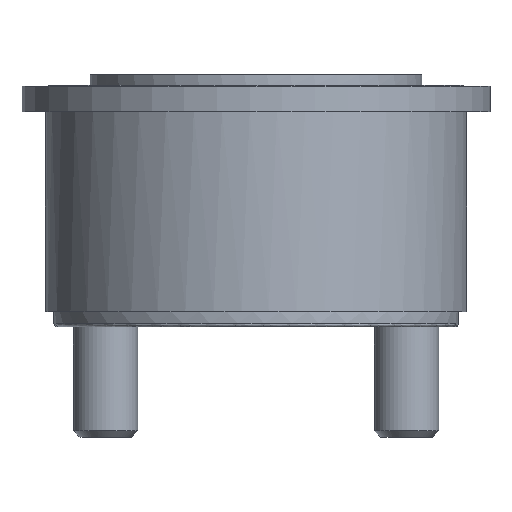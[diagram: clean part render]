
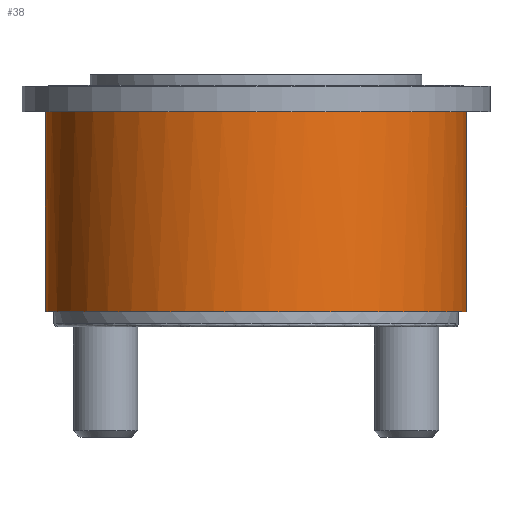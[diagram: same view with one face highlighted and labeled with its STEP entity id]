
A CAD part, front view. The second image highlights one B-rep face of the part: STEP entity #38.
In plain terms, the highlighted cylindrical face has radius 31.5 mm (diameter 63 mm), a full revolution.
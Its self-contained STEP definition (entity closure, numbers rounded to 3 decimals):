
#38=ADVANCED_FACE('',(#61),#287,.T.);
#61=FACE_OUTER_BOUND('',#87,.T.);
#87=EDGE_LOOP('',(#124,#125,#126,#127));
#124=ORIENTED_EDGE('',*,*,#188,.T.);
#125=ORIENTED_EDGE('',*,*,#189,.T.);
#126=ORIENTED_EDGE('',*,*,#190,.T.);
#127=ORIENTED_EDGE('',*,*,#189,.F.);
#188=EDGE_CURVE('',#256,#256,#226,.T.);
#189=EDGE_CURVE('',#256,#266,#227,.T.);
#190=EDGE_CURVE('',#266,#266,#228,.T.);
#226=(
BOUNDED_CURVE()
B_SPLINE_CURVE(2,(#549,#550,#551,#552,#553,#554,#555,#556,#557),
 .UNSPECIFIED.,.T.,.F.)
B_SPLINE_CURVE_WITH_KNOTS((3,2,2,2,3),(0.,49.48,98.96,
148.44,197.92),.UNSPECIFIED.)
CURVE()
GEOMETRIC_REPRESENTATION_ITEM()
RATIONAL_B_SPLINE_CURVE((1.,0.707,1.,0.707,1.,0.707,
1.,0.707,1.))
REPRESENTATION_ITEM('')
);
#227=(
BOUNDED_CURVE()
B_SPLINE_CURVE(1,(#558,#559),.UNSPECIFIED.,.F.,.F.)
B_SPLINE_CURVE_WITH_KNOTS((2,2),(0.,32.),.UNSPECIFIED.)
CURVE()
GEOMETRIC_REPRESENTATION_ITEM()
RATIONAL_B_SPLINE_CURVE((1.,1.))
REPRESENTATION_ITEM('')
);
#228=(
BOUNDED_CURVE()
B_SPLINE_CURVE(2,(#560,#561,#562,#563,#564,#565,#566,#567,#568),
 .UNSPECIFIED.,.T.,.F.)
B_SPLINE_CURVE_WITH_KNOTS((3,2,2,2,3),(-197.92,-148.44,
-98.96,-49.48,0.),.UNSPECIFIED.)
CURVE()
GEOMETRIC_REPRESENTATION_ITEM()
RATIONAL_B_SPLINE_CURVE((1.,0.707,1.,0.707,1.,0.707,
1.,0.707,1.))
REPRESENTATION_ITEM('')
);
#256=VERTEX_POINT('',#474);
#266=VERTEX_POINT('',#484);
#287=CYLINDRICAL_SURFACE('',#320,31.5);
#320=AXIS2_PLACEMENT_3D('',#364,#342,$);
#342=DIRECTION('',(0.,0.,1.));
#364=CARTESIAN_POINT('',(0.,0.,17.25));
#474=CARTESIAN_POINT('',(-31.5,0.,2.3));
#484=CARTESIAN_POINT('',(-31.5,0.,32.2));
#549=CARTESIAN_POINT('',(-31.5,0.,2.3));
#550=CARTESIAN_POINT('',(-31.5,-31.5,2.3));
#551=CARTESIAN_POINT('',(0.,-31.5,2.3));
#552=CARTESIAN_POINT('',(31.5,-31.5,2.3));
#553=CARTESIAN_POINT('',(31.5,0.,2.3));
#554=CARTESIAN_POINT('',(31.5,31.5,2.3));
#555=CARTESIAN_POINT('',(0.,31.5,2.3));
#556=CARTESIAN_POINT('',(-31.5,31.5,2.3));
#557=CARTESIAN_POINT('',(-31.5,0.,2.3));
#558=CARTESIAN_POINT('',(-31.5,0.,2.3));
#559=CARTESIAN_POINT('',(-31.5,0.,32.2));
#560=CARTESIAN_POINT('',(-31.5,0.,32.2));
#561=CARTESIAN_POINT('',(-31.5,31.5,32.2));
#562=CARTESIAN_POINT('',(0.,31.5,32.2));
#563=CARTESIAN_POINT('',(31.5,31.5,32.2));
#564=CARTESIAN_POINT('',(31.5,0.,32.2));
#565=CARTESIAN_POINT('',(31.5,-31.5,32.2));
#566=CARTESIAN_POINT('',(0.,-31.5,32.2));
#567=CARTESIAN_POINT('',(-31.5,-31.5,32.2));
#568=CARTESIAN_POINT('',(-31.5,0.,32.2));
